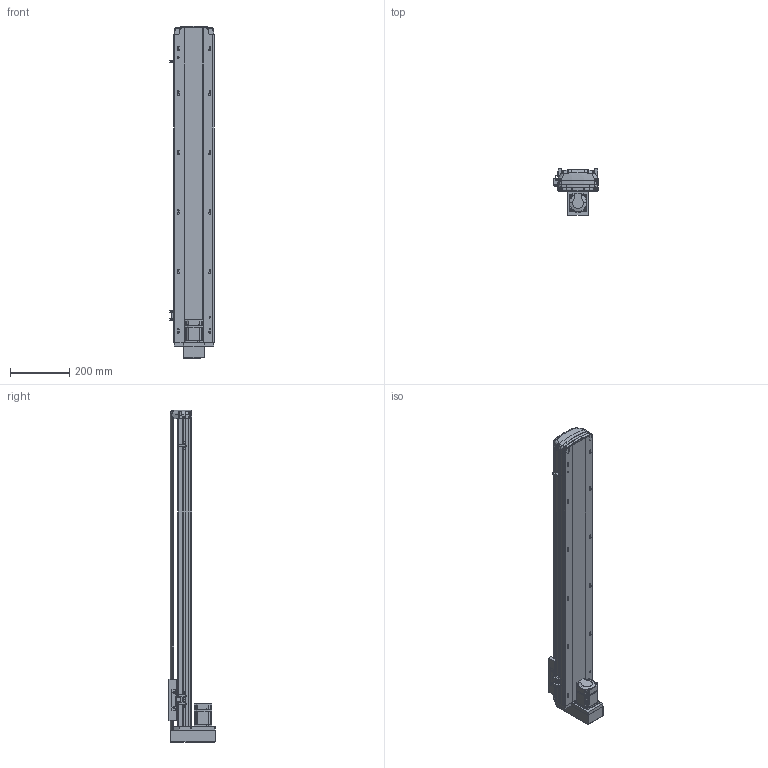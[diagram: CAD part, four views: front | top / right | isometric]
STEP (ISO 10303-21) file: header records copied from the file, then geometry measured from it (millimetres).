
FILE_DESCRIPTION (( 'STEP AP214' ), '1' );
FILE_NAME ('RTH14-XX-850-M-M20-C4.STEP', '2025-10-25T02:51:38', ( 'Microsoft' ), ( 'Microsoft' ), 'SwSTEP 2.0', 'SolidWorks 2018', '' );
FILE_SCHEMA (( 'AUTOMOTIVE_DESIGN' ));
Length unit declared in the file: millimetre
Products named in the file (10): N_OMRON EE-SX672 传感器^RTH14-XX-XX-M-M20-C4; N_RTH14-GY-001P^RTH14-XX-XX-M-M20-C4; N_RTH13-L-012感应片（外置）^RTH14-XX-XX-M-M20-C4; N_RTH14-M-007P奻裔^RTH14-XX-XX-M-M20-C4; N_RTH14-M-011P菁釱^RTH14-XX-XX-M-M20-C4; N_RTH13-M-008萇儂啣狟殏^RTH14-XX-XX-M-M20-C4; N_MSMD022P1AA_200W^RTH14-XX-XX-M-M20-C4; N_RTH13-M-018裔赽^RTH14-XX-XX-M-M20-C4; RTH14-XX-850-M-M20-C4; N_RTH14-R-004-SFSR16賑釱^RTH14-XX-XX-M-M20-C4
Assembly tree (11 placements, depth 2):
  RTH14-XX-850-M-M20-C4
    N_RTH14-M-011P菁釱^RTH14-XX-XX-M-M20-C4
    N_RTH14-M-007P奻裔^RTH14-XX-XX-M-M20-C4
    N_MSMD022P1AA_200W^RTH14-XX-XX-M-M20-C4
    N_RTH13-M-008萇儂啣狟殏^RTH14-XX-XX-M-M20-C4
    N_RTH13-M-018裔赽^RTH14-XX-XX-M-M20-C4
    N_RTH13-L-012感应片（外置）^RTH14-XX-XX-M-M20-C4
    N_OMRON EE-SX672 传感器^RTH14-XX-XX-M-M20-C4  x3
    N_RTH14-R-004-SFSR16賑釱^RTH14-XX-XX-M-M20-C4
    N_RTH14-GY-001P^RTH14-XX-XX-M-M20-C4
Bounding box: 148.5 x 156.5 x 1117.49 mm (x, y, z)
Volume: 4859183.9 mm3; surface area: 1113285 mm2
Topology: 11 solids, 11 shells, 1889 faces, 5282 edges, 3460 vertices
Faces by surface type: plane 997, cylinder 498, bspline 345, cone 45, torus 4
Entity records: 57764 total; most frequent: CARTESIAN_POINT 23173, ORIENTED_EDGE 7632, DIRECTION 6149, EDGE_CURVE 3816, VERTEX_POINT 2496, VECTOR 2187, LINE 2187, AXIS2_PLACEMENT_3D 1981
